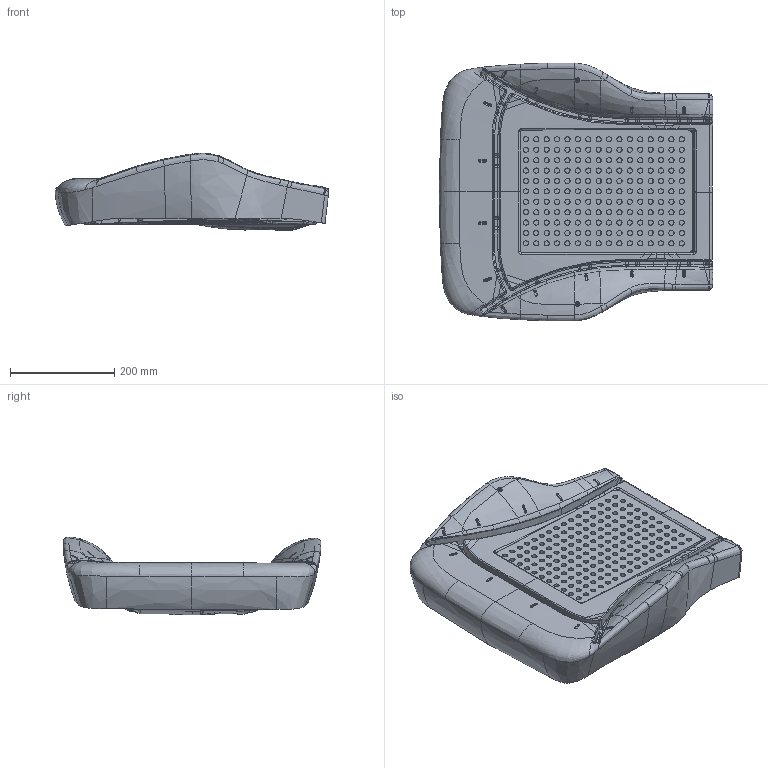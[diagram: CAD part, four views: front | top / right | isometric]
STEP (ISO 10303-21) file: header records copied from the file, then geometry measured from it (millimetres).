
FILE_DESCRIPTION(('CATIA V5 STEP Exchange'),'2;1');
FILE_NAME('C:\Users\Administrator\Desktop\风扇后移泡沫数据.stp','2025-08-04T14:07:32+00:00',('none'),('none'),'CATIA Version 5 Release 20 GA (IN-10)','CATIA V5 STEP AP214','none');
FILE_SCHEMA(('AUTOMOTIVE_DESIGN { 1 0 10303 214 1 1 1 1 }'));
Products named in the file (6): 产品1; 产品2; SHT0018137; SHT0018136; SHT0018182; SHT0013917
Assembly tree (5 placements, depth 3):
  产品1
    产品2
      SHT0018137
      SHT0018136
    SHT0018182
    SHT0013917
Bounding box: 525.85 x 495.64 x 148.78 mm (x, y, z)
Volume: 16769464.1 mm3; surface area: 1750864.8 mm2
Topology: 9 solids, 15 shells, 5750 faces, 15855 edges, 9902 vertices
Faces by surface type: plane 2368, bspline 1716, cylinder 1241, sphere 258, torus 84, extrusion 45, cone 38
Entity records: 445991 total; most frequent: CARTESIAN_POINT 318183, ORIENTED_EDGE 30768, DIRECTION 17724, EDGE_CURVE 15574, VERTEX_POINT 9880, VECTOR 7837, LINE 7792, EDGE_LOOP 6388
